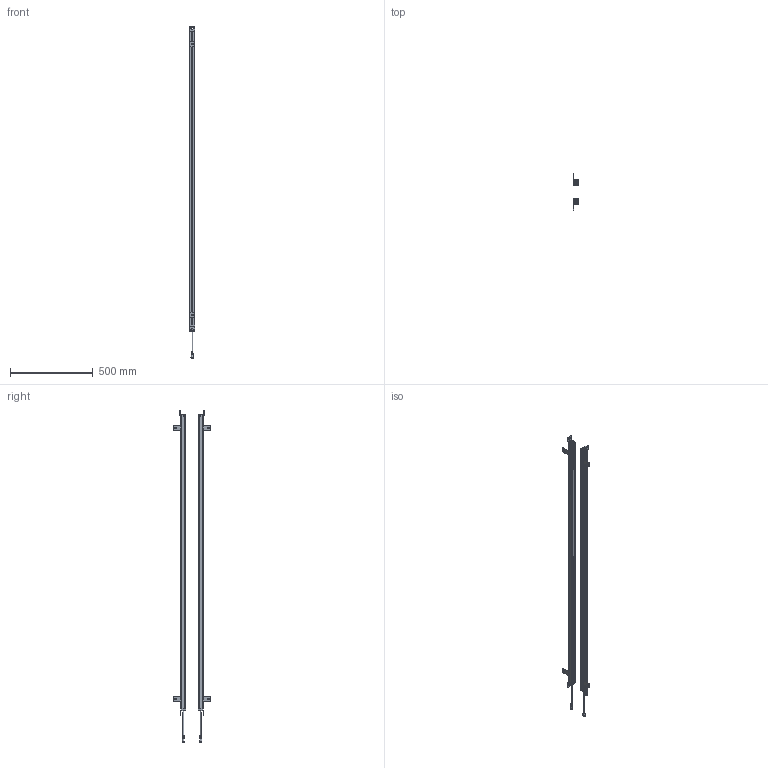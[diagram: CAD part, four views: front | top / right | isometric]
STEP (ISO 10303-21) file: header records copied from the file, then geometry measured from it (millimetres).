
FILE_DESCRIPTION(/* description */ (''),/* implementation_level */ '2;1');
FILE_NAME(/* name */ '4440（29x30).stp',/* time_stamp */ '2023-05-04T09:16:55+08:00',/* author */ (''),/* organization */ (''),/* preprocessor_version */ 'ST-DEVELOPER v16.7',/* originating_system */ 'SIEMENS PLM Software NX 12.0',/* authorisation */ '');
FILE_SCHEMA (('AUTOMOTIVE_DESIGN { 1 0 10303 214 3 1 1 1 }'));
Products named in the file (1): 2640（29x30__stp111_stp
Bounding box: 32.03 x 223.99 x 2001 mm (x, y, z)
Volume: 1089660.3 mm3; surface area: 1120150.7 mm2
Topology: 34 solids, 34 shells, 1610 faces, 4267 edges, 2771 vertices
Faces by surface type: plane 750, cylinder 648, bspline 88, sphere 36, cone 36, torus 32, extrusion 20
Full cylindrical faces by diameter (mm): 1.533 x6, 4.4 x4, 9 x2, 12.5 x2
Entity records: 56427 total; most frequent: CARTESIAN_POINT 16064, DIRECTION 8330, ORIENTED_EDGE 8324, EDGE_CURVE 4162, AXIS2_PLACEMENT_3D 2918, VERTEX_POINT 2696, VECTOR 2494, LINE 2474
